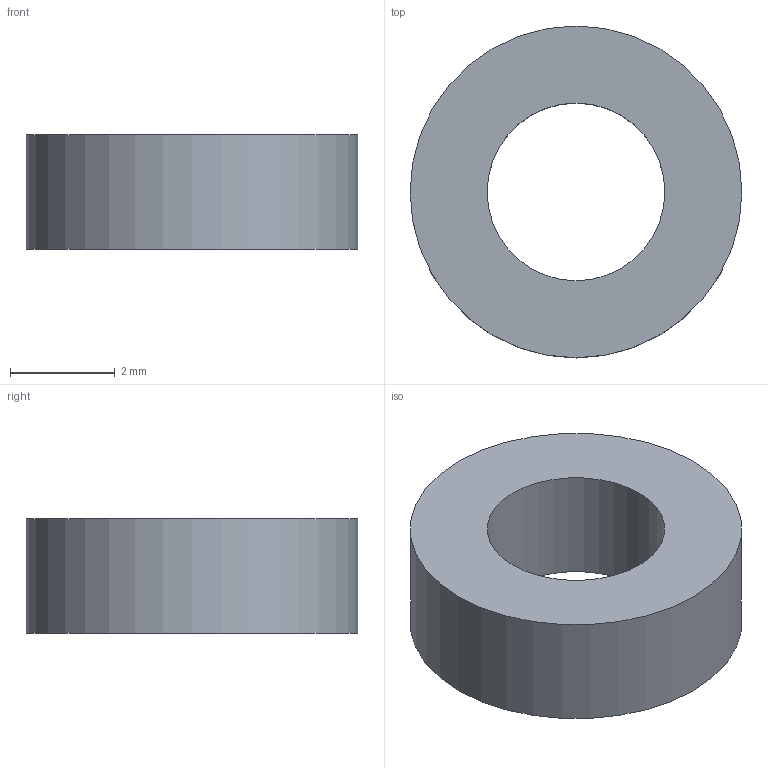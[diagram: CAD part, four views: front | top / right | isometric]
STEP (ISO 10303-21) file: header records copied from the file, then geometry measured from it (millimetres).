
FILE_DESCRIPTION(/* description */ ('STEP AP242 Edition 2','CAx-IF Rec.Pracs.---Representation and Presentation of Product Manufacturing Information (PMI)---4.0---2014-10-13','CAx-IF Rec.Pracs.---3D Tessellated Geometry---0.4---2014-09-14','2;1','CAx-IF Rec.Pracs.---User Defined Attributes---1.5---2016-08-15'),/* implementation_level */ '2;1');
FILE_NAME(/* name */ 'Main - Spacer',/* time_stamp */ '2026-09-22T02:10:48Z',/* author */ (''),/* organization */ (''),/* preprocessor_version */ 'ST-DEVELOPER v20',/* originating_system */ 'ONSHAPE BY PTC INC, 1.221',/* authorisation */ ' ');
FILE_SCHEMA (('AP242_MANAGED_MODEL_BASED_3D_ENGINEERING_MIM_LF { 1 0 10303 442 3 1 4 }'));
Length unit declared in the file: metre
Products named in the file (1): Spacer
Bounding box: 6.35 x 6.35 x 2.2 mm (x, y, z)
Volume: 49.7 mm3; surface area: 112.6 mm2
Topology: 1 solids, 1 shells, 4 faces, 6 edges, 4 vertices
Faces by surface type: cylinder 2, plane 2
Full cylindrical faces by diameter (mm): 3.4 x1, 6.35 x1
Entity records: 110 total; most frequent: DIRECTION 18, CARTESIAN_POINT 13, AXIS2_PLACEMENT_3D 9, ORIENTED_EDGE 8, EDGE_LOOP 8, FACE_BOUND 8, EDGE_CURVE 4, VERTEX_POINT 4
